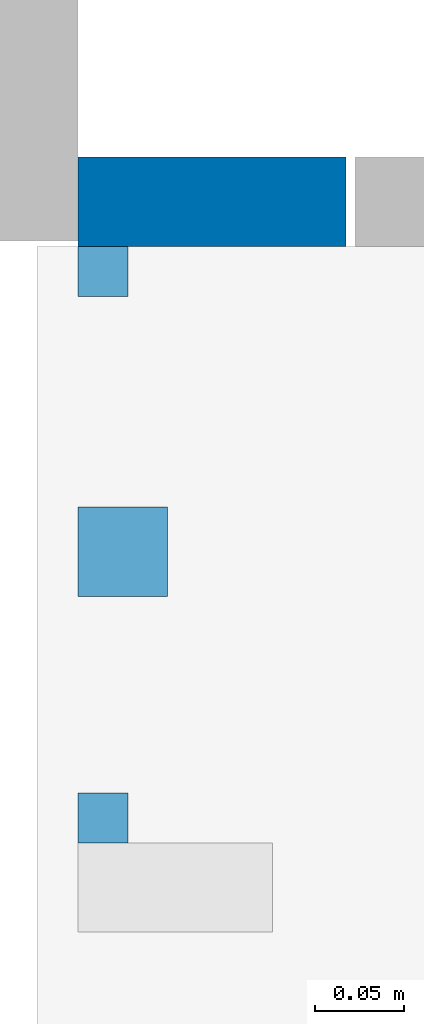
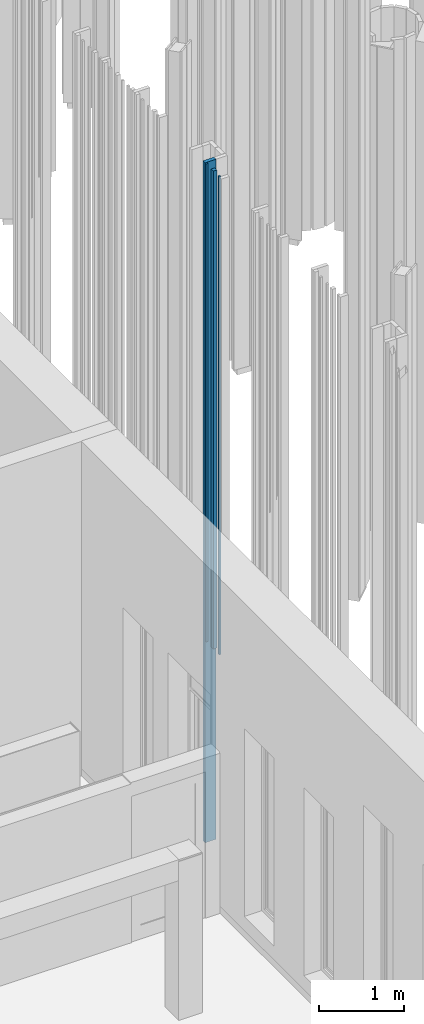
# One storey, part 185 of 390: 4 walls.
"""IFC2X3 building model written with IfcOpenShell, lengths in millimetres."""

from ifc_helpers import new_model, entity, si_unit, converted_unit, derived_unit, money_unit, direction, frame, origin_with_axes, place, context, subcontext, project, spatial, faceted_brep, material, type_object, element, save


model = new_model("IFC2X3")

# Units and contexts
model_context = context("Model", 3, precision=1e-05, world=origin_with_axes(), true_north=direction((0.0, 1.0)))
body_context = subcontext(model_context, "Body", "Model", "MODEL_VIEW")
ifc_project = project(units=[si_unit("LENGTHUNIT", "METRE", prefix="MILLI"), si_unit("AREAUNIT", "SQUARE_METRE"), si_unit("VOLUMEUNIT", "CUBIC_METRE"), converted_unit("PLANEANGLEUNIT", "DEGREE", entity("IfcPlaneAngleMeasure", 0.0174532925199), si_unit("PLANEANGLEUNIT", "RADIAN"), dimensions=[0, 0, 0, 0, 0, 0, 0]), si_unit("SOLIDANGLEUNIT", "STERADIAN"), money_unit("EUR"), converted_unit("TIMEUNIT", "Year", entity("IfcTimeMeasure", 31556926.0), si_unit("TIMEUNIT", "SECOND"), dimensions=[0, 0, 1, 0, 0, 0, 0]), si_unit("MASSUNIT", "GRAM", prefix="KILO"), si_unit("THERMODYNAMICTEMPERATUREUNIT", "DEGREE_CELSIUS"), si_unit("LUMINOUSINTENSITYUNIT", "LUMEN"), si_unit("ENERGYUNIT", "JOULE", prefix="MEGA"), derived_unit("THERMALCONDUCTANCEUNIT", [(si_unit("POWERUNIT", "WATT"), 1), (si_unit("LENGTHUNIT", "METRE"), -1), (si_unit("THERMODYNAMICTEMPERATUREUNIT", "KELVIN"), -1)]), derived_unit("SPECIFICHEATCAPACITYUNIT", [(si_unit("ENERGYUNIT", "JOULE"), 1), (si_unit("MASSUNIT", "GRAM", prefix="KILO"), -1), (si_unit("THERMODYNAMICTEMPERATUREUNIT", "KELVIN"), -1)]), derived_unit("MASSDENSITYUNIT", [(si_unit("MASSUNIT", "GRAM", prefix="KILO"), 1), (si_unit("VOLUMEUNIT", "CUBIC_METRE"), -1)])], contexts=[model_context])

# Site, building, storey
site_placement = place(None, origin_with_axes())
site = spatial("IfcSite", under=ifc_project, at=site_placement, Name="Site", CompositionType="ELEMENT")
building_placement = place(site_placement, origin_with_axes())
building = spatial("IfcBuilding", under=site, at=building_placement, Name="Building", CompositionType="ELEMENT")
storey_placement = place(building_placement, origin_with_axes())
storey = spatial("IfcBuildingStorey", under=building, at=storey_placement, Name="1 korrus", CompositionType="ELEMENT", Elevation=0.0)

# Walls
ifc_material = material(Name="Site specified")
wall_type_1 = type_object("IfcWallType", Name="Puitfassaadi ribistik", PredefinedType="NOTDEFINED")
for number, where, z_axis, x_axis, name in (
    (1, (139800.999998, 54566.8244713, 3000.0), (0.0, 0.0, 1.0), (0.0, -1.0, 0.0), "Site specified"),
    (2, (139800.999998, 54872.8244389, 3000.0), (0.0, 0.0, 1.0), (0.0, -1.0, 0.0), "Site specified"),
):
    element("IfcWall", number, at=place(storey_placement, frame(where, z_axis=z_axis, x_axis=x_axis)), inside=storey, type_object=wall_type_1, material=ifc_material, Name=name, context=body_context, shape_type="Brep", body=[
        faceted_brep([(-14.0, -14.0, 6865.0), (-14.0, -14.0, 0.0), (14.0, -14.0, 0.0), (14.0, -14.0, 6865.0), (-14.0, 14.0, 6865.0), (-14.0, 14.0, 0.0), (14.0, 14.0, 0.0), (14.0, 14.0, 6865.0)], [[[0, 1, 2, 3]], [[4, 5, 1, 0]], [[2, 1, 5, 6]], [[3, 2, 6, 7]], [[4, 0, 3, 7]], [[7, 6, 5, 4]]]),
    ])
wall_1_placement = place(storey_placement, frame((139811.999998, 54715.8244713, 3000.0), z_axis=(0.0, 0.0, 1.0), x_axis=(0.0, -1.0, 0.0)))
element("IfcWall", 3, at=wall_1_placement, inside=storey, type_object=wall_type_1, material=ifc_material, Name="Site specified", context=body_context, shape_type="Brep", body=[
    faceted_brep([(-25.0, -25.0, 6865.0), (-25.0, -25.0, 0.0), (25.0, -25.0, 0.0), (25.0, -25.0, 6865.0), (-25.0, 25.0, 6865.0), (-25.0, 25.0, 0.0), (25.0, 25.0, 0.0), (25.0, 25.0, 6865.0)], [[[0, 1, 2, 3]], [[4, 5, 1, 0]], [[2, 1, 5, 6]], [[3, 2, 6, 7]], [[4, 0, 3, 7]], [[7, 6, 5, 4]]]),
])
wall_type_2 = type_object("IfcWallType", Name="Puitfassaadi ribisik", PredefinedType="NOTDEFINED")
wall_2_placement = place(storey_placement, frame((139862.000003, 54911.8244244, 100.000000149), z_axis=(0.0, 0.0, 1.0), x_axis=(-1.92421249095e-07, -1.0, 0.0)))
element("IfcWall", 4, at=wall_2_placement, inside=storey, type_object=wall_type_2, material=ifc_material, Name="Site specified", context=body_context, shape_type="Brep", body=[
    faceted_brep([(-25.0, -75.0, 9764.99999475), (-25.0, -75.0, 0.0), (25.0, -75.0, 0.0), (25.0, -75.0, 9764.99999475), (-25.0, 75.0, 9764.99999475), (-25.0, 75.0, 0.0), (25.0, 75.0, 0.0), (25.0, 75.0, 9764.99999475)], [[[0, 1, 2, 3]], [[4, 5, 1, 0]], [[2, 1, 5, 6]], [[3, 2, 6, 7]], [[4, 0, 3, 7]], [[7, 6, 5, 4]]]),
])

save(model, "model.ifc")
